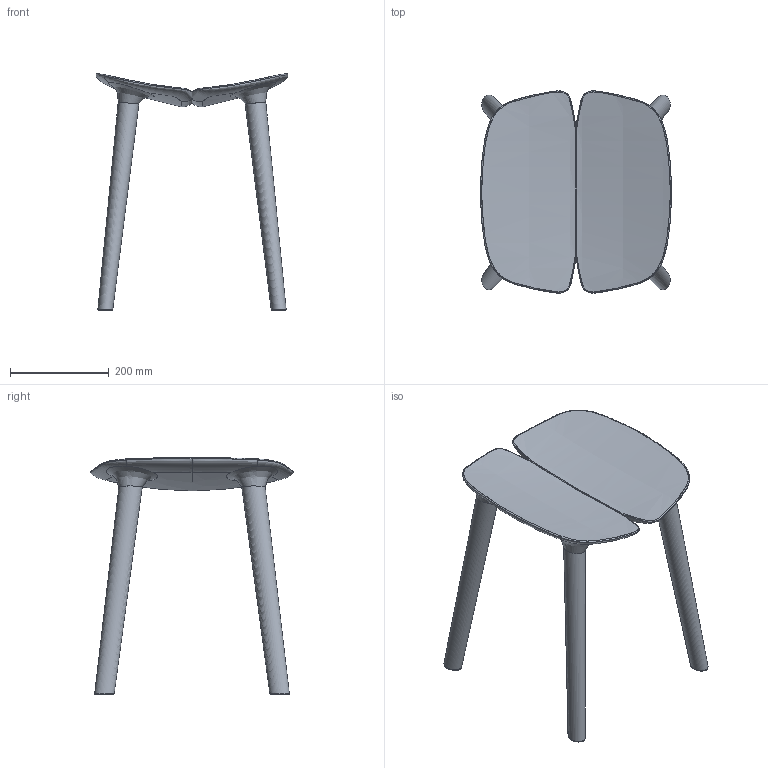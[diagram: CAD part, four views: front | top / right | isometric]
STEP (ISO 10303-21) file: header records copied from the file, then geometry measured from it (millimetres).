
FILE_DESCRIPTION(/* description */ (''),/* implementation_level */ '2;1');
FILE_NAME(/* name */ 'MC03_O~2',/* time_stamp */ '2021-05-26T13:47:57+02:00',/* author */ (''),/* organization */ (''),/* preprocessor_version */ 'ST-DEVELOPER v16.5',/* originating_system */ '',/* authorisation */ '');
FILE_SCHEMA (('AUTOMOTIVE_DESIGN'));
Length unit declared in the file: millimetre
Products named in the file (1): Document
Bounding box: 388.63 x 410.02 x 480.26 mm (x, y, z)
Surface area: 528131.1 mm2 (no closed solid volume)
Topology: 0 solids, 44 shells, 44 faces, 200 edges, 188 vertices
Faces by surface type: bspline 44
Entity records: 59948 total; most frequent: CARTESIAN_POINT 58114, B_SPLINE_CURVE_WITH_KNOTS 308, ORIENTED_EDGE 208, PCURVE 208, DEFINITIONAL_REPRESENTATION 208, SURFACE_CURVE 200, EDGE_CURVE 200, VERTEX_POINT 188
